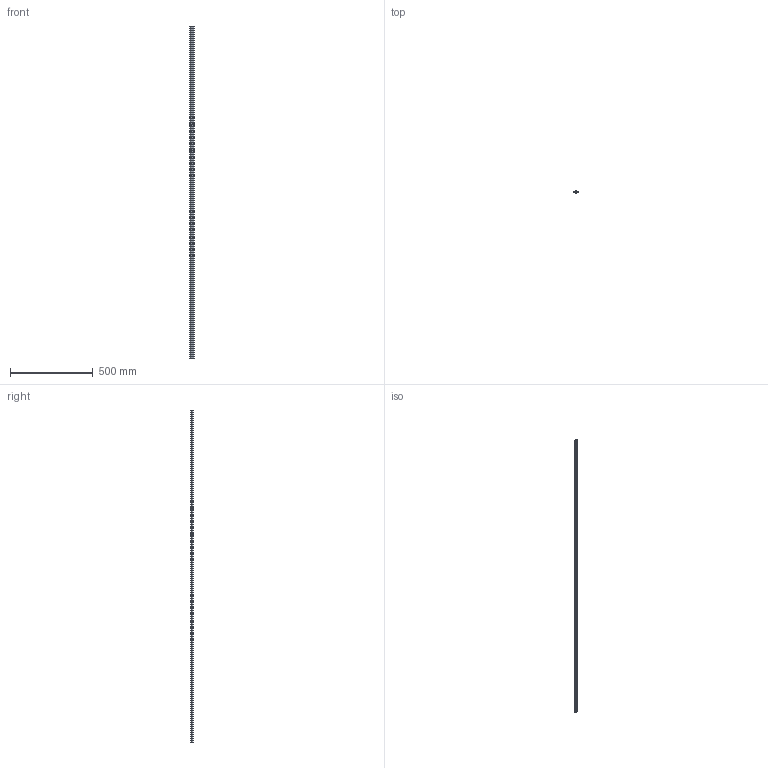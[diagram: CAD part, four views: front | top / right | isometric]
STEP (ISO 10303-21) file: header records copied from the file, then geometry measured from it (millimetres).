
FILE_DESCRIPTION (( 'STEP AP203' ), '1' );
FILE_NAME ('ChannelLine_H_24.STEP', '2024-11-29T06:01:42', ( '' ), ( '' ), 'SwSTEP 2.0', 'SolidWorks 2023', '' );
FILE_SCHEMA (( 'CONFIG_CONTROL_DESIGN' ));
Length unit declared in the file: millimetre
Products named in the file (3): 2553401_Pr02669_Al-Profil_ChannelLine_H_25.534.02; 2553501_Pr02669_K-Profil_ChannelLine_H_Art. Nr. 25.793.98 L=2000 mm; ChannelLine_H_24
Assembly tree (2 placements, depth 2):
  ChannelLine_H_24
    2553401_Pr02669_Al-Profil_ChannelLine_H_25.534.02
    2553501_Pr02669_K-Profil_ChannelLine_H_Art. Nr. 25.793.98 L=2000 mm
Bounding box: 25.19 x 12.86 x 2000 mm (x, y, z)
Volume: 143457.1 mm3; surface area: 252473.9 mm2
Topology: 2 solids, 2 shells, 84 faces, 240 edges, 160 vertices
Faces by surface type: cylinder 48, plane 36
Entity records: 3085 total; most frequent: DIRECTION 514, CARTESIAN_POINT 489, ORIENTED_EDGE 480, EDGE_CURVE 240, AXIS2_PLACEMENT_3D 185, VERTEX_POINT 160, LINE 144, VECTOR 144
